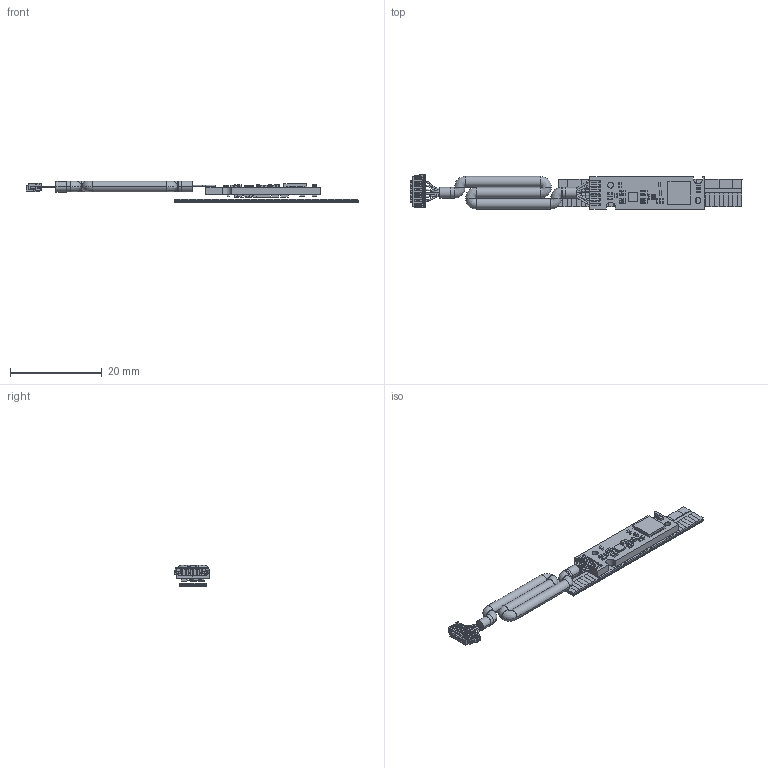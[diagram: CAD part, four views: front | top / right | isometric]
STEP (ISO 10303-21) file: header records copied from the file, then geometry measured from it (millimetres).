
FILE_DESCRIPTION((''),'2;1');
FILE_NAME('PCBA7_1MM_ASM','2026-05-29T',('guxinfeng'),(''),'PRO/ENGINEER BY PARAMETRIC TECHNOLOGY CORPORATION, 2012480','PRO/ENGINEER BY PARAMETRIC TECHNOLOGY CORPORATION, 2012480','');
FILE_SCHEMA(('CONFIG_CONTROL_DESIGN'));
Products named in the file (134): PRT0019__1_1; PRT0020__1_1; PRT0022__1_1; PRT0023__1_1; ASM0025__ASM_2_ASM_1_ASM; 棠掑004X__A_1_A_1_ASM; PRT0053__1_1; ﾏﾟ_6_3__1; PRT0054__1_1; 盄旰-004X__A_2_A_1_ASM; MANIFOLD_SOLID_BREP_23165__1_1; MANIFOLD_SOLID_BREP_23348__1_1; MANIFOLD_SOLID_BREP_23531__1_1; MANIFOLD_SOLID_BREP_23714__1_1; MANIFOLD_SOLID_BREP_23897__1_1; MANIFOLD_SOLID_BREP_24080__1_1; MANIFOLD_SOLID_BREP_24263__1_1; MANIFOLD_SOLID_BREP_24446__1_1; MANIFOLD_SOLID_BREP_24629__1_1; MANIFOLD_SOLID_BREP_24812__1_1; MANIFOLD_SOLID_BREP_24995__1_1; MANIFOLD_SOLID_BREP_25178__1_1; MANIFOLD_SOLID_BREP_25361__1_1; MANIFOLD_SOLID_BREP_25544__1_1; MANIFOLD_SOLID_BREP_25727__1_1; MANIFOLD_SOLID_BREP_25910__1_1; MANIFOLD_SOLID_BREP_26093__1_1; X0800HI-08-NOHF_2__ASM_1_ASM_1_ASM; X0800HI-08-NOHF__ASM_1_ASM_1_ASM; PRT0001_1; BOARD_ASM_1_ASM; PRT0002_1; PRT0003_1; TERMINAL-640_ASM_1_ASM; PRT0004_1; MID_BODY-1613_ASM_1_ASM; 6125848016_ASM_1_ASM; C19_ASM_1_ASM; C18_ASM_1_ASM; PRT0005_1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
Assembly tree (166 placements, depth 7):
  PCBA7_1MM_ASM
    棠掑004X__A_1_A_1_ASM
      ASM0025__ASM_2_ASM_1_ASM
        PRT0019__1_1
        PRT0020__1_1
        PRT0022__1_1
        PRT0023__1_1
    盄旰-004X__A_2_A_1_ASM
      PRT0053__1_1
      ﾏﾟ_6_3__1
      PRT0054__1_1
    X0800HI-08-NOHF__ASM_1_ASM_1_ASM
      X0800HI-08-NOHF_2__ASM_1_ASM_1_ASM
        MANIFOLD_SOLID_BREP_23165__1_1
        MANIFOLD_SOLID_BREP_23348__1_1
        MANIFOLD_SOLID_BREP_23531__1_1
        MANIFOLD_SOLID_BREP_23714__1_1
        MANIFOLD_SOLID_BREP_23897__1_1
        MANIFOLD_SOLID_BREP_24080__1_1
        MANIFOLD_SOLID_BREP_24263__1_1
        MANIFOLD_SOLID_BREP_24446__1_1
        MANIFOLD_SOLID_BREP_24629__1_1
        MANIFOLD_SOLID_BREP_24812__1_1
        MANIFOLD_SOLID_BREP_24995__1_1
        MANIFOLD_SOLID_BREP_25178__1_1
        MANIFOLD_SOLID_BREP_25361__1_1
        MANIFOLD_SOLID_BREP_25544__1_1
        MANIFOLD_SOLID_BREP_25727__1_1
        MANIFOLD_SOLID_BREP_25910__1_1
        MANIFOLD_SOLID_BREP_26093__1_1
    ELS-004_V1_6_1_ASM_1_ASM
      PCB_ASM_1_ASM
        BOARD_ASM_1_ASM
          PRT0001_1
        C19_ASM_1_ASM
          6125848016_ASM_1_ASM
            TERMINAL-640_ASM_1_ASM
              PRT0002_1
              PRT0003_1
            MID_BODY-1613_ASM_1_ASM
              PRT0004_1
        C18_ASM_1_ASM
          6125848016_ASM_1_ASM
            TERMINAL-640_ASM_1_ASM
              PRT0002_1
              PRT0003_1
            MID_BODY-1613_ASM_1_ASM
              PRT0004_1
        C6_ASM_1_ASM
          6125847456_ASM_1_ASM
            TERMINAL-2023_ASM_1_ASM
              PRT0005_1
              PRT0006_1
            MID_BODY-2996_ASM_1_ASM
              PRT0007_1
        R7_ASM_1_ASM
          6125847376_ASM_1_ASM
            MID_BODY-3379_1
            TERMINAL-3555_ASM_1_ASM  x2
              PRT0008_1
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Bounding box: 72.22 x 7.49 x 4.67 mm (x, y, z)
Volume: 819.1 mm3; surface area: 3538.8 mm2
Topology: 157 solids, 157 shells, 3456 faces, 9359 edges, 5988 vertices
Faces by surface type: plane 2585, cylinder 671, sphere 152, torus 30, bspline 16, revolution 2
Entity records: 80757 total; most frequent: CARTESIAN_POINT 13951, ORIENTED_EDGE 12098, DIRECTION 11949, EDGE_CURVE 6049, VECTOR 5087, LINE 5087, VERTEX_POINT 4000, AXIS2_PLACEMENT_3D 3430
